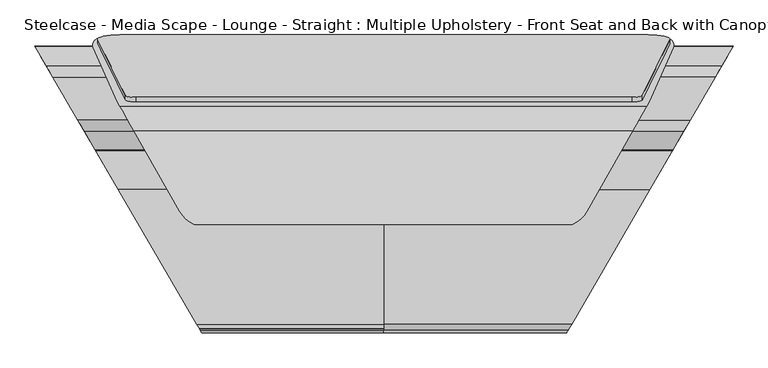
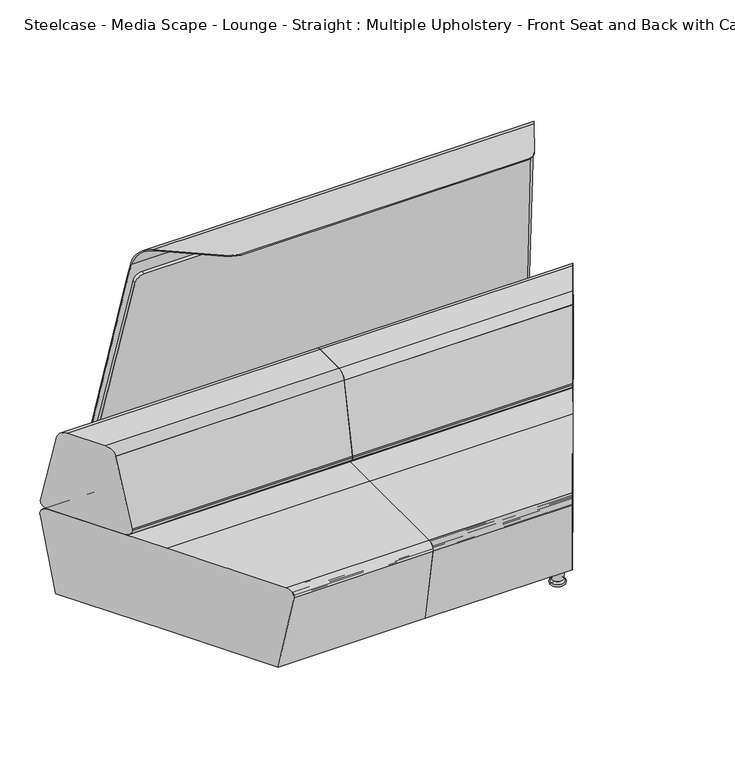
"""IFC4 building model written with IfcOpenShell, lengths in millimetres: furniture geometry, Steelcase - Media Scape - Lounge - Straight : Multiple Upholstery - Front Seat and Back with Canopy."""

from ifc_helpers import new_model, si_unit, point, frame, frame_2d, origin, place, context, project, spatial, polyline, circle_curve, ellipse_curve, trimmed, segment, composite_curve, outline, extrude, source, transform, mapped, element, save
from ifc_brep_helpers import plane_surface, cylinder_surface, revolved_surface, advanced_brep


def steelcase_media_scape_lounge_straight_multiple_upholstery_071ac3ef(model_context):
    return source(origin(), model_context, "Body", "SolidModel", [
        extrude(outline(composite_curve([segment(polyline([(-1415.6185057, 0.0), (23.7511862, 0.0)]), True, "CONTINUOUS"), segment(trimmed(circle_curve(frame_2d((23.7511862, -31.75)), 31.75), [point((23.7511862, 0.0))], [point((55.3473815, -28.6286315))], False, "CARTESIAN"), True, "CONTINUOUS"), segment(polyline([(55.3473815, -28.6286315), (135.1417459, -836.3507541)]), True, "CONTINUOUS"), segment(trimmed(circle_curve(frame_2d((71.9493552, -842.5934909)), 63.5), [point((135.1417459, -836.3507541))], [point((71.9493552, -906.0934908))], False, "CARTESIAN"), True, "CONTINUOUS"), segment(polyline([(71.9493552, -906.0934908), (-1463.8166748, -906.0934908)]), True, "CONTINUOUS"), segment(trimmed(circle_curve(frame_2d((-1463.8166748, -842.5934909)), 63.5), [point((-1463.8166748, -906.0934908))], [point((-1527.0090654, -836.3507541))], False, "CARTESIAN"), True, "CONTINUOUS"), segment(polyline([(-1527.0090654, -836.3507541), (-1447.2147011, -28.6286315)]), True, "CONTINUOUS"), segment(trimmed(circle_curve(frame_2d((-1415.6185057, -31.75)), 31.75), [point((-1447.2147011, -28.6286315))], [point((-1415.6185057, 0.0))], False, "CARTESIAN"), True, "CONTINUOUS")], self_intersect=False)), frame((-166.9698071, 655.0019123, 1344.801262), z_axis=(0.0, 0.9796723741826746, 0.20060418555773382), x_axis=(-1.0, 0.0, 0.0)), (0.0, 0.0, 1.0), 13.7320107),
        advanced_brep(
        [(1076.5280427, 315.862875, 1570.0120121), (-21.7753373, 315.862875, 1570.0120121), (-19.3514145, 314.8894993, 1567.0162697), (1074.1041199, 314.8894993, 1567.0162697), (-64.0738464, 353.3851692, 1554.9229177), (-193.5709962, 581.5044703, 1483.2596108), (1248.3237015, 581.5044703, 1483.2596108), (1118.8265517, 353.3851692, 1554.9229177), (-236.9611075, 657.939526, 1398.5726582), (1291.7138128, 657.939526, 1398.5726582), (-245.4256965, 672.8505579, 1325.7790448), (-315.0113816, 829.1425656, 562.7828877), (-308.6715155, 853.1887441, 445.3927408), (1363.4242208, 853.1887441, 445.3927408), (1369.7640869, 829.1425656, 562.7828877), (1300.1784018, 672.8505579, 1325.7790448), (-304.9480444, 855.3584553, 445.837184), (-302.7530382, 856.2990758, 446.0298606), (1357.5057435, 856.2990758, 446.0298606), (1359.7007498, 855.3584553, 445.837184), (-304.9480444, 855.3584553, 450.6218411), (-315.0113816, 829.1425656, 578.6042206), (-245.4256965, 672.8505579, 1341.6003778), (-237.9951573, 659.7610852, 1405.5013892), (1292.7478626, 659.7610852, 1405.5013892), (1300.1784018, 672.8505579, 1341.6003778), (1369.7640869, 829.1425656, 578.6042206), (1359.7007498, 855.3584553, 450.6218411), (-197.6081664, 588.6162597, 1484.3269805), (1252.3608718, 588.6162597, 1484.3269805), (1118.8265517, 353.3851692, 1558.2244445), (-64.0738464, 353.3851692, 1558.2244445)],
        [
            (0, 1),
            (1, 2, ellipse_curve(frame((12.0540789, 396.6009308, 1818.4981974), z_axis=(0.0, -0.9510565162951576, 0.3090169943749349), x_axis=(0.0, -0.30901699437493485, -0.9510565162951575)), 283.281906, 87.5389231)),
            (2, 3),
            (3, 0, ellipse_curve(frame((1042.6986264, 396.6009308, 1818.4981974), z_axis=(0.0, -0.9510565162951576, 0.3090169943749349), x_axis=(0.0, -0.30901699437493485, -0.9510565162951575)), 283.281906, 87.5389231)),
            (2, 4, ellipse_curve(frame((12.0540789, 396.6009308, 1541.3467565), z_axis=(0.0, -0.2997073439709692, -0.9540311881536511), x_axis=(0.0, 0.9540311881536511, -0.29970734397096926)), 91.7568778, 87.5389231)),
            (4, 5),
            (5, 6),
            (6, 7),
            (7, 3, ellipse_curve(frame((1042.6986264, 396.6009308, 1541.3467565), z_axis=(0.0, -0.2997073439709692, -0.9540311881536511), x_axis=(0.0, 0.9540311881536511, -0.29970734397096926)), 91.7568778, 87.5389231)),
            (5, 8, ellipse_curve(frame((-174.445594, 547.8135868, 1376.0144789), z_axis=(-0.8696465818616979, -0.49367481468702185, 0.0), x_axis=(-0.4936748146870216, 0.8696465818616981, 0.0)), 129.2624017, 112.4126058)),
            (8, 9),
            (9, 6, ellipse_curve(frame((1229.1982993, 547.8135868, 1376.0144789), z_axis=(0.869646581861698, -0.49367481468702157, 0.0), x_axis=(-0.4936748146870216, -0.869646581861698, 0.0)), 129.2624017, 112.4126058)),
            (8, 10),
            (10, 11),
            (11, 12, ellipse_curve(frame((-296.8717682, 837.2188418, 523.3556142), z_axis=(0.0, -0.9796582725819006, -0.20067303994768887), x_axis=(0.0, 0.20067303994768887, -0.9796582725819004)), 98.9484134, 19.8562789)),
            (12, 13),
            (13, 14, ellipse_curve(frame((1351.6244735, 837.2188418, 523.3556142), z_axis=(0.0, -0.9796582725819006, -0.20067303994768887), x_axis=(0.0, 0.20067303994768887, -0.9796582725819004)), 98.9484134, 19.8562789)),
            (14, 15),
            (15, 9),
            (12, 16, ellipse_curve(frame((-296.8717682, 837.2188418, 442.1214686), z_axis=(0.0, 0.20067303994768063, -0.9796582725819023), x_axis=(0.0, -0.9796582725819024, -0.2006730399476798)), 20.2685768, 19.8562789)),
            (16, 17, ellipse_curve(frame((-270.3174639, 777.5768979, 429.9044226), z_axis=(0.0, 0.20067303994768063, -0.9796582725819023), x_axis=(0.0, -0.9796582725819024, -0.2006730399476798)), 86.9104226, 85.1425145)),
            (17, 18),
            (18, 19, ellipse_curve(frame((1325.0701692, 777.5768979, 429.9044226), z_axis=(0.0, 0.20067303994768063, -0.9796582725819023), x_axis=(0.0, -0.9796582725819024, -0.2006730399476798)), 86.9104226, 85.1425145)),
            (19, 13, ellipse_curve(frame((1351.6244735, 837.2188418, 442.1214686), z_axis=(0.0, 0.20067303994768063, -0.9796582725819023), x_axis=(0.0, -0.9796582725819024, -0.2006730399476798)), 20.2685768, 19.8562789)),
            (17, 20, ellipse_curve(frame((-270.3174639, 777.5768979, 830.3407419), z_axis=(0.0, 0.9796582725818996, 0.2006730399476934), x_axis=(0.0, 0.20067303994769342, -0.9796582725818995)), 424.2847695, 85.1425145)),
            (20, 21, ellipse_curve(frame((-296.8717682, 837.2188418, 539.1769472), z_axis=(0.0, 0.9796582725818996, 0.2006730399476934), x_axis=(0.0, 0.20067303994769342, -0.9796582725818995)), 98.9484134, 19.8562789)),
            (21, 22),
            (22, 23),
            (23, 24),
            (24, 25),
            (25, 26),
            (26, 27, ellipse_curve(frame((1351.6244735, 837.2188418, 539.1769472), z_axis=(0.0, 0.9796582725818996, 0.2006730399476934), x_axis=(0.0, 0.20067303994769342, -0.9796582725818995)), 98.9484134, 19.8562789)),
            (27, 18, ellipse_curve(frame((1325.0701692, 777.5768979, 830.3407419), z_axis=(0.0, 0.9796582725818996, 0.2006730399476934), x_axis=(0.0, 0.20067303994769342, -0.9796582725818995)), 424.2847695, 85.1425145)),
            (23, 28, ellipse_curve(frame((-179.8064733, 557.2571927, 1384.5045087), z_axis=(0.8696465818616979, 0.49367481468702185, 0.0), x_axis=(0.4936748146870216, -0.8696465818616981, 0.0)), 120.3158803, 104.632294)),
            (28, 29),
            (29, 24, ellipse_curve(frame((1234.5591787, 557.2571927, 1384.5045087), z_axis=(-0.869646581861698, 0.49367481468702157, 0.0), x_axis=(0.4936748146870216, 0.869646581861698, 0.0)), 120.3158803, 104.632294)),
            (0, 30, ellipse_curve(frame((1042.6986264, 396.6009308, 1544.6482834), z_axis=(0.0, 0.29970734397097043, 0.9540311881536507), x_axis=(0.0, 0.9540311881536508, -0.29970734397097)), 91.7568778, 87.5389231)),
            (30, 29),
            (28, 31),
            (31, 1, ellipse_curve(frame((12.0540789, 396.6009308, 1544.6482834), z_axis=(0.0, 0.29970734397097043, 0.9540311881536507), x_axis=(0.0, 0.9540311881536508, -0.29970734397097)), 91.7568778, 87.5389231)),
            (10, 22),
            (21, 11),
            (20, 16),
            (31, 4),
            (15, 25),
            (30, 7),
            (27, 19),
            (26, 14),
        ],
        [
            plane_surface(frame((1420.6196209, 315.862875, 1570.0120121), z_axis=(0.0, -0.9510565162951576, 0.3090169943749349), x_axis=(-1.0, 0.0, 0.0))),
            plane_surface(frame((1420.6196209, 314.8894993, 1567.0162697), z_axis=(0.0, -0.2997073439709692, -0.9540311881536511), x_axis=(-1.0, 0.0, 0.0))),
            revolved_surface(polyline([(-238.25918620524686, 435.40098100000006, 1376.0144789), (1293.0118915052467, 435.40098100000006, 1376.0144789)]), (-365.811857, 547.8135868, 1376.0144789), (-1.0, 0.0, 0.0)),
            plane_surface(frame((1420.6196209, 657.939526, 1398.5726582), z_axis=(0.0, -0.9796582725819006, -0.20067303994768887), x_axis=(-1.0, 0.0, 0.0))),
            plane_surface(frame((1420.6196209, 853.1887441, 445.3927408), z_axis=(0.0, 0.20067303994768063, -0.9796582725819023), x_axis=(-1.0, 0.0, 0.0))),
            plane_surface(frame((1420.6196209, 856.2990758, 446.0298606), z_axis=(0.0, 0.9796582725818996, 0.2006730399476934), x_axis=(-1.0, 0.0, 0.0))),
            cylinder_surface(frame((-365.811857, 557.2571927, 1384.5045087), z_axis=(1.0, 0.0, 0.0), x_axis=(0.0, -1.0, 0.0)), 104.632294),
            plane_surface(frame((1420.6196209, 588.6162597, 1484.3269805), z_axis=(0.0, 0.29970734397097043, 0.9540311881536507), x_axis=(-1.0, 0.0, 0.0))),
            plane_surface(frame((-245.4256965, 672.8505579, 1835.1143061), z_axis=(-0.9135454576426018, -0.40673664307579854, 0.0), x_axis=(0.0, 0.0, -1.0))),
            cylinder_surface(frame((-296.8717682, 837.2188418, 445.3927408), z_axis=(0.0, 0.0, -1.0), x_axis=(1.0, 0.0, 0.0)), 19.8562789),
            cylinder_surface(frame((-270.3174639, 777.5768979, 445.3927408), z_axis=(0.0, 0.0, -1.0), x_axis=(1.0, 0.0, 0.0)), 85.1425145),
            cylinder_surface(frame((12.0540789, 396.6009308, 445.3927408), z_axis=(0.0, 0.0, -1.0), x_axis=(1.0, 0.0, 0.0)), 87.5389231),
            plane_surface(frame((-64.0738464, 353.3851692, 1835.1143061), z_axis=(-0.8696465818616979, -0.49367481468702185, 0.0), x_axis=(0.0, 0.0, -1.0))),
            plane_surface(frame((1300.1784018, 672.8505579, 1835.1143061), z_axis=(0.869646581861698, -0.49367481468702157, 0.0), x_axis=(0.0, 0.0, -1.0))),
            cylinder_surface(frame((1042.6986264, 396.6009308, 0.0), z_axis=(0.0, 0.0, -1.0), x_axis=(-1.0, 0.0, 0.0)), 87.5389231),
            cylinder_surface(frame((1325.0701692, 777.5768979, 0.0), z_axis=(0.0, 0.0, -1.0), x_axis=(-1.0, 0.0, 0.0)), 85.1425145),
            cylinder_surface(frame((1351.6244735, 837.2188418, 0.0), z_axis=(0.0, 0.0, -1.0), x_axis=(-1.0, 0.0, 0.0)), 19.8562789),
            plane_surface(frame((1369.7640869, 829.1425656, 1835.1143061), z_axis=(0.9135454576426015, -0.40673664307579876, 0.0), x_axis=(0.0, 0.0, -1.0))),
        ],
        [
            (0, [[1, 2, 3, 4]]),
            (1, [[-3, 5, 6, 7, 8, 9]]),
            (2, [[-7, 10, 11, 12]]),
            (3, [[-11, 13, 14, 15, 16, 17, 18, 19]]),
            (4, [[-16, 20, 21, 22, 23, 24]]),
            (5, [[-22, 25, 26, 27, 28, 29, 30, 31, 32, 33]]),
            (6, [[-29, 34, 35, 36]]),
            (7, [[-1, 37, 38, -35, 39, 40]]),
            (8, [[41, -27, 42, -14]]),
            (9, [[-42, -26, 43, -20, -15]]),
            (10, [[-43, -25, -21]]),
            (11, [[44, -5, -2, -40]]),
            (12, [[-41, -13, -10, -6, -44, -39, -34, -28]]),
            (13, [[45, -30, -36, -38, 46, -8, -12, -19]]),
            (14, [[-46, -37, -4, -9]]),
            (15, [[47, -23, -33]]),
            (16, [[-47, -32, 48, -17, -24]]),
            (17, [[-45, -18, -48, -31]]),
        ],
    ),
        extrude(outline(composite_curve([segment(polyline([(-1415.6185057, 0.0), (23.7511862, 0.0)]), True, "CONTINUOUS"), segment(trimmed(circle_curve(frame_2d((23.7511862, -31.75)), 31.75), [point((23.7511862, 0.0))], [point((55.3473815, -28.6286315))], False, "CARTESIAN"), True, "CONTINUOUS"), segment(polyline([(55.3473815, -28.6286315), (135.1417459, -836.3507541)]), True, "CONTINUOUS"), segment(trimmed(circle_curve(frame_2d((71.9493552, -842.5934909)), 63.5), [point((135.1417459, -836.3507541))], [point((71.9493552, -906.0934908))], False, "CARTESIAN"), True, "CONTINUOUS"), segment(polyline([(71.9493552, -906.0934908), (-1463.8166748, -906.0934908)]), True, "CONTINUOUS"), segment(trimmed(circle_curve(frame_2d((-1463.8166748, -842.5934909)), 63.5), [point((-1463.8166748, -906.0934908))], [point((-1527.0090654, -836.3507541))], False, "CARTESIAN"), True, "CONTINUOUS"), segment(polyline([(-1527.0090654, -836.3507541), (-1447.2147011, -28.6286315)]), True, "CONTINUOUS"), segment(trimmed(circle_curve(frame_2d((-1415.6185057, -31.75)), 31.75), [point((-1447.2147011, -28.6286315))], [point((-1415.6185057, 0.0))], False, "CARTESIAN"), True, "CONTINUOUS")], self_intersect=False)), frame((-166.9698071, 671.5649733, 1348.1940367), z_axis=(0.0, 0.9796723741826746, 0.20060418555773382), x_axis=(-1.0, 0.0, 0.0)), (0.0, 0.0, 1.0), 13.7320107),
        advanced_brep(
        [(-432.9507329, 744.618392, 735.1171206), (-452.3869175, 778.0460766, 707.6422134), (-483.7023664, 831.9045354, 434.7626426), (-469.2133128, 806.9852663, 404.4443065), (-323.688364, 556.7014693, 404.4443065), (-309.1993104, 531.7822003, 434.7626426), (-340.5147593, 585.640659, 707.6422134), (-359.950944, 619.0683436, 735.1171206), (528.9638527, 744.618392, 735.1171206), (528.9638527, 619.0683436, 735.1171206), (528.9638527, 585.640659, 707.6422134), (528.9638527, 531.7822003, 434.7626426), (528.9638527, 556.7014693, 404.4443065), (528.9638527, 806.9852663, 404.4443065), (528.9638527, 831.9045354, 434.7626426), (528.9638527, 778.0460766, 707.6422134)],
        [
            (0, 1, ellipse_curve(frame((-432.9507329, 744.618392, 701.0445646), z_axis=(-0.8644905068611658, -0.5026491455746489, 0.0), x_axis=(-0.5026491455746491, 0.8644905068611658, 0.0)), 39.413453, 34.0725559)),
            (1, 2),
            (2, 3, ellipse_curve(frame((-469.2133128, 806.9852663, 429.8443065), z_axis=(-0.8644905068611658, -0.5026491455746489, 0.0), x_axis=(-0.5026491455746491, 0.8644905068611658, 0.0)), 29.3814678, 25.4)),
            (3, 4),
            (4, 5, ellipse_curve(frame((-323.688364, 556.7014693, 429.8443065), z_axis=(-0.8644905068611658, -0.5026491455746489, 0.0), x_axis=(-0.502649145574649, 0.8644905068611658, 0.0)), 29.3814678, 25.4)),
            (5, 6),
            (6, 7, ellipse_curve(frame((-359.950944, 619.0683436, 701.0445646), z_axis=(-0.8644905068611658, -0.5026491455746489, 0.0), x_axis=(-0.502649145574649, 0.8644905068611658, 0.0)), 39.413453, 34.0725559)),
            (7, 0),
            (8, 9),
            (9, 10, circle_curve(frame((528.9638527, 619.0683436, 701.0445646), z_axis=(1.0, 0.0, 0.0), x_axis=(0.0, -1.0, 0.0)), 34.0725559)),
            (10, 11),
            (11, 12, circle_curve(frame((528.9638527, 556.7014693, 429.8443065), z_axis=(1.0, 0.0, 0.0), x_axis=(0.0, -1.0, 0.0)), 25.4)),
            (12, 13),
            (13, 14, circle_curve(frame((528.9638527, 806.9852663, 429.8443065), z_axis=(1.0, 0.0, 0.0), x_axis=(0.0, 1.0, 0.0)), 25.4)),
            (14, 15),
            (15, 8, circle_curve(frame((528.9638527, 744.618392, 701.0445646), z_axis=(1.0, 0.0, 0.0), x_axis=(0.0, 1.0, 0.0)), 34.0725559)),
            (15, 1),
            (0, 8),
            (14, 2),
            (13, 3),
            (12, 4),
            (11, 5),
            (10, 6),
            (9, 7),
        ],
        [
            plane_surface(frame((22.6450752, -38.9465548, 744.9721396), z_axis=(-0.8644905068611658, -0.5026491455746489, 0.0), x_axis=(0.0, 0.0, -1.0))),
            plane_surface(frame((528.9638527, 778.690948, 701.0445646), z_axis=(1.0, 0.0, 0.0), x_axis=(0.0, 0.0, 1.0))),
            cylinder_surface(frame((528.9638527, 744.618392, 701.0445646), z_axis=(-1.0, 0.0, 0.0), x_axis=(0.0, 1.0, 0.0)), 34.0725559),
            plane_surface(frame((-497.7585178, 778.0460766, 707.6422134), z_axis=(0.0, 0.9810735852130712, 0.19363527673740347), x_axis=(1.0, 0.0, 0.0))),
            cylinder_surface(frame((528.9638527, 806.9852663, 429.8443065), z_axis=(-1.0, 0.0, 0.0), x_axis=(0.0, 1.0, 0.0)), 25.4),
            plane_surface(frame((-497.7585178, 806.9852663, 404.4443065), z_axis=(0.0, 0.0, -1.0), x_axis=(1.0, 0.0, 0.0))),
            cylinder_surface(frame((528.9638527, 556.7014693, 429.8443065), z_axis=(-1.0, 0.0, 0.0), x_axis=(0.0, -1.0, 0.0)), 25.4),
            plane_surface(frame((-497.7585178, 531.7822003, 434.7626426), z_axis=(0.0, -0.9810735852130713, 0.1936352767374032), x_axis=(1.0, 0.0, 0.0))),
            cylinder_surface(frame((528.9638527, 619.0683436, 701.0445646), z_axis=(-1.0, 0.0, 0.0), x_axis=(0.0, -1.0, 0.0)), 34.0725559),
            plane_surface(frame((-497.7585178, 619.0683436, 735.1171206), z_axis=(0.0, 0.0, 1.0), x_axis=(1.0, 0.0, 0.0))),
        ],
        [
            (0, [[1, 2, 3, 4, 5, 6, 7, 8]]),
            (1, [[9, 10, 11, 12, 13, 14, 15, 16]]),
            (2, [[-16, 17, -1, 18]]),
            (3, [[-15, 19, -2, -17]]),
            (4, [[-14, 20, -3, -19]]),
            (5, [[-13, 21, -4, -20]]),
            (6, [[-12, 22, -5, -21]]),
            (7, [[-11, 23, -6, -22]]),
            (8, [[-10, 24, -7, -23]]),
            (9, [[-9, -18, -8, -24]]),
        ],
    ),
        advanced_brep(
        [(528.9638527, 416.9525328, 404.4443065), (528.9638527, 25.4465658, 404.4443065), (528.9638527, 0.4050887, 374.7917281), (528.9638527, 51.3770305, 74.6414242), (528.9638527, 416.9525328, 74.6414242), (528.9638527, 782.5280351, 74.6414242), (528.9638527, 833.4999769, 374.7917281), (528.9638527, 808.4584998, 404.4443065), (-242.4327771, 416.9525328, 404.4443065), (-14.7956449, 25.4465658, 404.4443065), (-0.2355347, 0.4050887, 374.7917281), (-29.8726479, 51.3770305, 74.6414242), (-242.4327771, 416.9525328, 74.6414242), (-454.9929064, 782.5280351, 74.6414242), (-484.6300196, 833.4999769, 374.7917281), (-470.0699093, 808.4584998, 404.4443065)],
        [
            (0, 1),
            (1, 2, circle_curve(frame((528.9638527, 25.4465658, 379.0443065), z_axis=(1.0, 0.0, 0.0), x_axis=(0.0, -1.0, 0.0)), 25.4)),
            (2, 3),
            (3, 4),
            (4, 5),
            (5, 6),
            (6, 7, circle_curve(frame((528.9638527, 808.4584998, 379.0443065), z_axis=(1.0, 0.0, 0.0), x_axis=(0.0, 1.0, 0.0)), 25.4)),
            (7, 0),
            (0, 8),
            (8, 9),
            (9, 1),
            (9, 10, ellipse_curve(frame((-14.7956449, 25.4465658, 379.0443065), z_axis=(0.8644905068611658, 0.5026491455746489, 0.0), x_axis=(0.502649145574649, -0.8644905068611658, 0.0)), 29.3814678, 25.4)),
            (10, 2),
            (10, 11),
            (11, 3),
            (11, 12),
            (12, 4),
            (12, 13),
            (13, 5),
            (13, 14),
            (14, 6),
            (14, 15, ellipse_curve(frame((-470.0699093, 808.4584998, 379.0443065), z_axis=(0.8644905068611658, 0.5026491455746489, 0.0), x_axis=(0.502649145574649, -0.8644905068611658, 0.0)), 29.3814678, 25.4)),
            (15, 7),
            (15, 8),
        ],
        [
            plane_surface(frame((528.9638527, -57.5722485, 404.4443065), z_axis=(1.0, 0.0, 0.0), x_axis=(0.0, -1.0, 0.0))),
            plane_surface(frame((528.9638527, 416.9525328, 404.4443065), z_axis=(0.0, 0.0, 1.0), x_axis=(-1.0, 0.0, 0.0))),
            cylinder_surface(frame((-497.7585178, 25.4465658, 379.0443065), z_axis=(1.0, 0.0, 0.0), x_axis=(0.0, -1.0, 0.0)), 25.4),
            plane_surface(frame((528.9638527, 0.4050887, 374.7917281), z_axis=(0.0, -0.9858849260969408, -0.16742434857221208), x_axis=(-1.0, 0.0, 0.0))),
            plane_surface(frame((528.9638527, 51.3770305, 74.6414242), z_axis=(0.0, 0.0, -1.0), x_axis=(-1.0, 0.0, 0.0))),
            plane_surface(frame((528.9638527, 416.9525328, 74.6414242), z_axis=(0.0, 0.0, -1.0), x_axis=(-1.0, 0.0, 0.0))),
            plane_surface(frame((528.9638527, 782.5280351, 74.6414242), z_axis=(0.0, 0.9858849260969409, -0.1674243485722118), x_axis=(-1.0, 0.0, 0.0))),
            cylinder_surface(frame((-497.7585178, 808.4584998, 379.0443065), z_axis=(1.0, 0.0, 0.0), x_axis=(0.0, 1.0, 0.0)), 25.4),
            plane_surface(frame((528.9638527, 808.4584998, 404.4443065), z_axis=(0.0, 0.0, 1.0), x_axis=(-1.0, 0.0, 0.0))),
            plane_surface(frame((22.6450752, -38.9465548, 744.9721396), z_axis=(-0.8644905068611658, -0.5026491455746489, 0.0), x_axis=(0.0, 0.0, -1.0))),
        ],
        [
            (0, [[1, 2, 3, 4, 5, 6, 7, 8]]),
            (1, [[-1, 9, 10, 11]]),
            (2, [[-2, -11, 12, 13]]),
            (3, [[-3, -13, 14, 15]]),
            (4, [[-4, -15, 16, 17]]),
            (5, [[-5, -17, 18, 19]]),
            (6, [[-6, -19, 20, 21]]),
            (7, [[-7, -21, 22, 23]]),
            (8, [[-8, -23, 24, -9]]),
            (9, [[-10, -24, -22, -20, -18, -16, -14, -12]]),
        ],
    ),
        advanced_brep(
        [(1528.798605, 808.4584998, 404.4443065), (1301.6333208, 416.9525328, 404.4443065), (1074.4680366, 25.4465658, 404.4443065), (1059.9381066, 0.4050887, 374.7917281), (1089.5137878, 51.3770305, 74.6414242), (1301.6333208, 416.9525328, 74.6414242), (1513.7528538, 782.5280351, 74.6414242), (1543.328535, 833.4999769, 374.7917281), (528.9638527, 416.9525328, 404.4443065), (528.9638527, 808.4584998, 404.4443065), (528.9638527, 833.4999769, 374.7917281), (528.9638527, 782.5280351, 74.6414242), (528.9638527, 416.9525328, 74.6414242), (528.9638527, 51.3770305, 74.6414242), (528.9638527, 0.4050887, 374.7917281), (528.9638527, 25.4465658, 404.4443065)],
        [
            (0, 1),
            (1, 2),
            (2, 3, ellipse_curve(frame((1074.4680366, 25.4465658, 379.0443065), z_axis=(0.8649431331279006, -0.5018698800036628, 0.0), x_axis=(-0.5018698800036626, -0.8649431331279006, 0.0)), 29.3660924, 25.4)),
            (3, 4),
            (4, 5),
            (5, 6),
            (6, 7),
            (7, 0, ellipse_curve(frame((1528.798605, 808.4584998, 379.0443065), z_axis=(0.8649431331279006, -0.5018698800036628, 0.0), x_axis=(-0.5018698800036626, -0.8649431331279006, 0.0)), 29.3660924, 25.4)),
            (8, 9),
            (9, 10, circle_curve(frame((528.9638527, 808.4584998, 379.0443065), z_axis=(-1.0, 0.0, 0.0), x_axis=(0.0, 1.0, 0.0)), 25.4)),
            (10, 11),
            (11, 12),
            (12, 13),
            (13, 14),
            (14, 15, circle_curve(frame((528.9638527, 25.4465658, 379.0443065), z_axis=(-1.0, 0.0, 0.0), x_axis=(0.0, -1.0, 0.0)), 25.4)),
            (15, 8),
            (8, 1),
            (0, 9),
            (7, 10),
            (6, 11),
            (5, 12),
            (4, 13),
            (3, 14),
            (2, 15),
        ],
        [
            plane_surface(frame((1544.0895768, 834.8115876, 744.9721396), z_axis=(0.8649431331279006, -0.5018698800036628, 0.0), x_axis=(0.0, 0.0, -1.0))),
            plane_surface(frame((528.9638527, 891.4773142, 404.4443065), z_axis=(-1.0, 0.0, 0.0), x_axis=(0.0, 1.0, 0.0))),
            plane_surface(frame((528.9638527, 416.9525328, 404.4443065), z_axis=(0.0, 0.0, 1.0), x_axis=(1.0, 0.0, 0.0))),
            cylinder_surface(frame((1555.6862231, 808.4584998, 379.0443065), z_axis=(-1.0, 0.0, 0.0), x_axis=(0.0, 1.0, 0.0)), 25.4),
            plane_surface(frame((528.9638527, 833.4999769, 374.7917281), z_axis=(0.0, 0.9858849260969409, -0.1674243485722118), x_axis=(1.0, 0.0, 0.0))),
            plane_surface(frame((528.9638527, 782.5280351, 74.6414242), z_axis=(0.0, 0.0, -1.0), x_axis=(1.0, 0.0, 0.0))),
            plane_surface(frame((528.9638527, 416.9525328, 74.6414242), z_axis=(0.0, 0.0, -1.0), x_axis=(1.0, 0.0, 0.0))),
            plane_surface(frame((528.9638527, 51.3770305, 74.6414242), z_axis=(0.0, -0.9858849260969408, -0.16742434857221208), x_axis=(1.0, 0.0, 0.0))),
            cylinder_surface(frame((1555.6862231, 25.4465658, 379.0443065), z_axis=(-1.0, 0.0, 0.0), x_axis=(0.0, -1.0, 0.0)), 25.4),
            plane_surface(frame((528.9638527, 25.4465658, 404.4443065), z_axis=(0.0, 0.0, 1.0), x_axis=(1.0, 0.0, 0.0))),
        ],
        [
            (0, [[1, 2, 3, 4, 5, 6, 7, 8]]),
            (1, [[9, 10, 11, 12, 13, 14, 15, 16]]),
            (2, [[-9, 17, -1, 18]]),
            (3, [[-10, -18, -8, 19]]),
            (4, [[-11, -19, -7, 20]]),
            (5, [[-12, -20, -6, 21]]),
            (6, [[-13, -21, -5, 22]]),
            (7, [[-14, -22, -4, 23]]),
            (8, [[-15, -23, -3, 24]]),
            (9, [[-16, -24, -2, -17]]),
        ],
    ),
        advanced_brep(
        [(528.9638527, 744.618392, 735.1171206), (528.9638527, 778.0460766, 707.6422134), (528.9638527, 831.9045354, 434.7626426), (528.9638527, 806.9852663, 404.4443065), (528.9638527, 556.7014693, 404.4443065), (528.9638527, 531.7822003, 434.7626426), (528.9638527, 585.640659, 707.6422134), (528.9638527, 619.0683436, 735.1171206), (1418.9078951, 619.0683436, 735.1171206), (1491.7563695, 744.618392, 735.1171206), (1399.5119979, 585.640659, 707.6422134), (1368.26146, 531.7822003, 434.7626426), (1382.7204806, 556.7014693, 404.4443065), (1527.9437841, 806.9852663, 404.4443065), (1542.4028047, 831.9045354, 434.7626426), (1511.1522667, 778.0460766, 707.6422134)],
        [
            (0, 1, circle_curve(frame((528.9638527, 744.618392, 701.0445646), z_axis=(-1.0, 0.0, 0.0), x_axis=(0.0, 1.0, 0.0)), 34.0725559)),
            (1, 2),
            (2, 3, circle_curve(frame((528.9638527, 806.9852663, 429.8443065), z_axis=(-1.0, 0.0, 0.0), x_axis=(0.0, 1.0, 0.0)), 25.4)),
            (3, 4),
            (4, 5, circle_curve(frame((528.9638527, 556.7014693, 429.8443065), z_axis=(-1.0, 0.0, 0.0), x_axis=(0.0, -1.0, 0.0)), 25.4)),
            (5, 6),
            (6, 7, circle_curve(frame((528.9638527, 619.0683436, 701.0445646), z_axis=(-1.0, 0.0, 0.0), x_axis=(0.0, -1.0, 0.0)), 34.0725559)),
            (7, 0),
            (7, 8),
            (8, 9),
            (9, 0),
            (6, 10),
            (10, 8, ellipse_curve(frame((1418.9078951, 619.0683436, 701.0445646), z_axis=(-0.8649431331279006, 0.5018698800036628, 0.0), x_axis=(0.5018698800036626, 0.8649431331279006, 0.0)), 39.3928279, 34.0725559)),
            (5, 11),
            (11, 10),
            (4, 12),
            (12, 11, ellipse_curve(frame((1382.7204806, 556.7014693, 429.8443065), z_axis=(-0.8649431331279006, 0.5018698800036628, 0.0), x_axis=(0.5018698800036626, 0.8649431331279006, 0.0)), 29.3660924, 25.4)),
            (3, 13),
            (13, 12),
            (2, 14),
            (14, 13, ellipse_curve(frame((1527.9437841, 806.9852663, 429.8443065), z_axis=(-0.8649431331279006, 0.5018698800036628, 0.0), x_axis=(0.5018698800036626, 0.8649431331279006, 0.0)), 29.3660924, 25.4)),
            (1, 15),
            (15, 14),
            (9, 15, ellipse_curve(frame((1491.7563695, 744.618392, 701.0445646), z_axis=(-0.8649431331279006, 0.5018698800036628, 0.0), x_axis=(0.5018698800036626, 0.8649431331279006, 0.0)), 39.3928279, 34.0725559)),
        ],
        [
            plane_surface(frame((528.9638527, 567.2050656, 735.1171206), z_axis=(-1.0, 0.0, 0.0), x_axis=(0.0, 1.0, 0.0))),
            plane_surface(frame((1555.6862231, 744.618392, 735.1171206), z_axis=(0.0, 0.0, 1.0), x_axis=(-1.0, 0.0, 0.0))),
            cylinder_surface(frame((528.9638527, 619.0683436, 701.0445646), z_axis=(1.0, 0.0, 0.0), x_axis=(0.0, -1.0, 0.0)), 34.0725559),
            plane_surface(frame((1555.6862231, 585.640659, 707.6422134), z_axis=(0.0, -0.9810735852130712, 0.19363527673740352), x_axis=(-1.0, 0.0, 0.0))),
            cylinder_surface(frame((528.9638527, 556.7014693, 429.8443065), z_axis=(1.0, 0.0, 0.0), x_axis=(0.0, -1.0, 0.0)), 25.4),
            plane_surface(frame((1555.6862231, 556.7014693, 404.4443065), z_axis=(0.0, 0.0, -1.0), x_axis=(-1.0, 0.0, 0.0))),
            cylinder_surface(frame((528.9638527, 806.9852663, 429.8443065), z_axis=(1.0, 0.0, 0.0), x_axis=(0.0, 1.0, 0.0)), 25.4),
            plane_surface(frame((1555.6862231, 831.9045354, 434.7626426), z_axis=(0.0, 0.9810735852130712, 0.19363527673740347), x_axis=(-1.0, 0.0, 0.0))),
            cylinder_surface(frame((528.9638527, 744.618392, 701.0445646), z_axis=(1.0, 0.0, 0.0), x_axis=(0.0, 1.0, 0.0)), 34.0725559),
            plane_surface(frame((1544.0895768, 834.8115876, 744.9721396), z_axis=(0.8649431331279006, -0.5018698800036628, 0.0), x_axis=(0.0, 0.0, -1.0))),
        ],
        [
            (0, [[1, 2, 3, 4, 5, 6, 7, 8]]),
            (1, [[-8, 9, 10, 11]]),
            (2, [[-7, 12, 13, -9]]),
            (3, [[-6, 14, 15, -12]]),
            (4, [[-5, 16, 17, -14]]),
            (5, [[-4, 18, 19, -16]]),
            (6, [[-3, 20, 21, -18]]),
            (7, [[-2, 22, 23, -20]]),
            (8, [[-1, -11, 24, -22]]),
            (9, [[-10, -13, -15, -17, -19, -21, -23, -24]]),
        ],
    ),
        advanced_brep(
        [(1382.5440126, 556.3973372, 404.1903065), (1527.9728725, 807.0353985, 404.1903065), (1527.9728725, 807.0353985, 405.2063065), (1382.6346639, 556.5535694, 405.2063065), (1368.6809061, 532.5050909, 434.4651844), (1399.9655094, 586.4222592, 707.6422134), (1399.3646184, 585.386659, 707.6422134), (1368.084992, 531.4780681, 434.5086426), (528.9638527, 556.3973372, 404.1903065), (528.9638527, 531.4780681, 434.5086426), (528.9638527, 585.386659, 707.6422134), (528.9638527, 586.4222592, 707.6422134), (528.9638527, 532.5050909, 434.4651844), (528.9638527, 556.5535694, 405.2063065), (528.9638527, 807.0353985, 405.2063065), (528.9638527, 807.0353985, 404.1903065)],
        [
            (0, 1),
            (1, 2),
            (2, 3),
            (3, 4, ellipse_curve(frame((1382.6346639, 556.5535694, 429.718717), z_axis=(-0.8649431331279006, 0.5018698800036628, 0.0), x_axis=(-0.5018698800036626, -0.8649431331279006, 0.0)), 28.33991, 24.5124105)),
            (4, 5),
            (5, 6),
            (6, 7),
            (7, 0, ellipse_curve(frame((1382.5440126, 556.3973372, 429.5903065), z_axis=(0.8649431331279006, -0.5018698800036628, 0.0), x_axis=(0.5018698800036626, 0.8649431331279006, 0.0)), 29.3660924, 25.4)),
            (8, 9, circle_curve(frame((528.9638527, 556.3973372, 429.5903065), z_axis=(-1.0, 0.0, 0.0), x_axis=(0.0, -1.0, 0.0)), 25.4)),
            (9, 10),
            (10, 11),
            (11, 12),
            (12, 13, circle_curve(frame((528.9638527, 556.5535694, 429.718717), z_axis=(1.0, 0.0, 0.0), x_axis=(0.0, -1.0, 0.0)), 24.5124105)),
            (13, 14),
            (14, 15),
            (15, 8),
            (15, 1),
            (0, 8),
            (14, 2),
            (13, 3),
            (12, 4),
            (11, 5),
            (10, 6),
            (9, 7),
        ],
        [
            plane_surface(frame((1544.0895768, 834.8115876, 1808.8293217), z_axis=(0.8649431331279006, -0.5018698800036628, 0.0), x_axis=(0.0, 0.0, -1.0))),
            plane_surface(frame((528.9638527, 852.9550656, 404.1903065), z_axis=(-1.0, 0.0, 0.0), x_axis=(0.0, -1.0, 0.0))),
            plane_surface(frame((1555.6862231, 556.3973372, 404.1903065), z_axis=(0.0, 0.0, -1.0), x_axis=(-1.0, 0.0, 0.0))),
            plane_surface(frame((1555.6862231, 807.0353985, 404.1903065), z_axis=(0.0, 1.0, 0.0), x_axis=(-1.0, 0.0, 0.0))),
            plane_surface(frame((1555.6862231, 807.0353985, 405.2063065), z_axis=(0.0, 0.0, 1.0), x_axis=(-1.0, 0.0, 0.0))),
            revolved_surface(polyline([(528.9638527, 532.0411589, 429.718717), (1396.8576111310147, 532.0411589, 429.718717)]), (528.9638527, 556.5535694, 429.718717), (-1.0, 0.0, 0.0)),
            plane_surface(frame((1555.6862231, 532.5050909, 434.4651844), z_axis=(0.0, 0.9810735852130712, -0.19363527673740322), x_axis=(-1.0, 0.0, 0.0))),
            plane_surface(frame((1555.6862231, 586.4222592, 707.6422134), z_axis=(0.0, 0.0, 1.0), x_axis=(-1.0, 0.0, 0.0))),
            plane_surface(frame((1555.6862231, 585.386659, 707.6422134), z_axis=(0.0, -0.9810735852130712, 0.1936352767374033), x_axis=(-1.0, 0.0, 0.0))),
            cylinder_surface(frame((528.9638527, 556.3973372, 429.5903065), z_axis=(1.0, 0.0, 0.0), x_axis=(0.0, -1.0, 0.0)), 25.4),
        ],
        [
            (0, [[1, 2, 3, 4, 5, 6, 7, 8]]),
            (1, [[9, 10, 11, 12, 13, 14, 15, 16]]),
            (2, [[-16, 17, -1, 18]]),
            (3, [[-15, 19, -2, -17]]),
            (4, [[-14, 20, -3, -19]]),
            (5, [[-13, 21, -4, -20]]),
            (6, [[-12, 22, -5, -21]]),
            (7, [[-11, 23, -6, -22]]),
            (8, [[-10, 24, -7, -23]]),
            (9, [[-9, -18, -8, -24]]),
        ],
    ),
        advanced_brep(
        [(-323.5115295, 556.3973372, 404.1903065), (-309.0224759, 531.4780681, 434.5086426), (-340.3670736, 585.386659, 707.6422134), (-340.9692127, 586.4222592, 707.6422134), (-309.6196278, 532.5050909, 434.4651844), (-323.6023691, 556.5535694, 405.2063065), (-469.2424616, 807.0353985, 405.2063065), (-469.2424616, 807.0353985, 404.1903065), (528.9638527, 556.3973372, 404.1903065), (528.9638527, 807.0353985, 404.1903065), (528.9638527, 807.0353985, 405.2063065), (528.9638527, 556.5535694, 405.2063065), (528.9638527, 532.5050909, 434.4651844), (528.9638527, 586.4222592, 707.6422134), (528.9638527, 585.386659, 707.6422134), (528.9638527, 531.4780681, 434.5086426)],
        [
            (0, 1, ellipse_curve(frame((-323.5115295, 556.3973372, 429.5903065), z_axis=(-0.8644905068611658, -0.5026491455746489, 0.0), x_axis=(-0.502649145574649, 0.8644905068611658, 0.0)), 29.3814678, 25.4)),
            (1, 2),
            (2, 3),
            (3, 4),
            (4, 5, ellipse_curve(frame((-323.6023691, 556.5535694, 429.718717), z_axis=(0.8644905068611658, 0.5026491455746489, 0.0), x_axis=(0.502649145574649, -0.8644905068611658, 0.0)), 28.354748, 24.5124105)),
            (5, 6),
            (6, 7),
            (7, 0),
            (8, 9),
            (9, 10),
            (10, 11),
            (11, 12, circle_curve(frame((528.9638527, 556.5535694, 429.718717), z_axis=(-1.0, 0.0, 0.0), x_axis=(0.0, -1.0, 0.0)), 24.5124105)),
            (12, 13),
            (13, 14),
            (14, 15),
            (15, 8, circle_curve(frame((528.9638527, 556.3973372, 429.5903065), z_axis=(1.0, 0.0, 0.0), x_axis=(0.0, -1.0, 0.0)), 25.4)),
            (15, 1),
            (0, 8),
            (14, 2),
            (13, 3),
            (12, 4),
            (11, 5),
            (10, 6),
            (9, 7),
        ],
        [
            plane_surface(frame((22.6450752, -38.9465548, 1808.8293217), z_axis=(-0.8644905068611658, -0.5026491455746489, 0.0), x_axis=(0.0, 0.0, -1.0))),
            plane_surface(frame((528.9638527, 530.9973372, 429.5903065), z_axis=(1.0, 0.0, 0.0), x_axis=(0.0, 0.0, -1.0))),
            cylinder_surface(frame((528.9638527, 556.3973372, 429.5903065), z_axis=(-1.0, 0.0, 0.0), x_axis=(0.0, -1.0, 0.0)), 25.4),
            plane_surface(frame((-497.7585178, 531.4780681, 434.5086426), z_axis=(0.0, -0.9810735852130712, 0.1936352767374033), x_axis=(1.0, 0.0, 0.0))),
            plane_surface(frame((-497.7585178, 585.386659, 707.6422134), z_axis=(0.0, 0.0, 1.0), x_axis=(1.0, 0.0, 0.0))),
            plane_surface(frame((-497.7585178, 586.4222592, 707.6422134), z_axis=(0.0, 0.9810735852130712, -0.19363527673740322), x_axis=(1.0, 0.0, 0.0))),
            revolved_surface(polyline([(528.9638527, 532.0411589, 429.718717), (-337.85485895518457, 532.0411589, 429.718717)]), (528.9638527, 556.5535694, 429.718717), (1.0, 0.0, 0.0)),
            plane_surface(frame((-497.7585178, 556.5535694, 405.2063065), z_axis=(0.0, 0.0, 1.0), x_axis=(1.0, 0.0, 0.0))),
            plane_surface(frame((-497.7585178, 807.0353985, 405.2063065), z_axis=(0.0, 1.0, 0.0), x_axis=(1.0, 0.0, 0.0))),
            plane_surface(frame((-497.7585178, 807.0353985, 404.1903065), z_axis=(0.0, 0.0, -1.0), x_axis=(1.0, 0.0, 0.0))),
        ],
        [
            (0, [[1, 2, 3, 4, 5, 6, 7, 8]]),
            (1, [[9, 10, 11, 12, 13, 14, 15, 16]]),
            (2, [[-16, 17, -1, 18]]),
            (3, [[-15, 19, -2, -17]]),
            (4, [[-14, 20, -3, -19]]),
            (5, [[-13, 21, -4, -20]]),
            (6, [[-12, 22, -5, -21]]),
            (7, [[-11, 23, -6, -22]]),
            (8, [[-10, 24, -7, -23]]),
            (9, [[-9, -18, -8, -24]]),
        ],
    ),
        advanced_brep(
        [(528.9638527, 416.9525328, 404.6983065), (528.9638527, 808.759271, 404.6983065), (528.9638527, 833.8007481, 375.0457281), (528.9638527, 0.1043175, 375.0457281), (528.9638527, 25.1457946, 404.6983065), (1301.6333208, 416.9525328, 404.6983065), (1528.9731229, 808.759271, 404.6983065), (1543.5030528, 833.8007481, 375.0457281), (1059.7635888, 0.1043175, 375.0457281), (1074.2935187, 25.1457946, 404.6983065)],
        [
            (0, 1),
            (1, 2, circle_curve(frame((528.9638527, 808.759271, 379.2983065), z_axis=(-1.0, 0.0, 0.0), x_axis=(0.0, 1.0, 0.0)), 25.4)),
            (2, 3),
            (3, 4, circle_curve(frame((528.9638527, 25.1457946, 379.2983065), z_axis=(-1.0, 0.0, 0.0), x_axis=(0.0, -1.0, 0.0)), 25.4)),
            (4, 0),
            (0, 5),
            (5, 6),
            (6, 1),
            (6, 7, ellipse_curve(frame((1528.9731229, 808.759271, 379.2983065), z_axis=(-0.8649431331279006, 0.5018698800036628, 0.0), x_axis=(-0.5018698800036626, -0.8649431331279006, 0.0)), 29.3660924, 25.4)),
            (7, 2),
            (7, 8),
            (8, 3),
            (8, 9, ellipse_curve(frame((1074.2935187, 25.1457946, 379.2983065), z_axis=(-0.8649431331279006, 0.5018698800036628, 0.0), x_axis=(-0.5018698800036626, -0.8649431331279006, 0.0)), 29.3660924, 25.4)),
            (9, 4),
            (9, 5),
        ],
        [
            plane_surface(frame((528.9638527, 891.4773142, 404.6983065), z_axis=(-1.0, 0.0, 0.0), x_axis=(0.0, 1.0, 0.0))),
            plane_surface(frame((528.9638527, 416.9525328, 404.6983065), z_axis=(0.0, 0.0, 1.0), x_axis=(1.0, 0.0, 0.0))),
            cylinder_surface(frame((1555.6087571, 808.759271, 379.2983065), z_axis=(-1.0, 0.0, 0.0), x_axis=(0.0, 1.0, 0.0)), 25.4),
            plane_surface(frame((528.9638527, 833.8007481, 375.0457281), z_axis=(0.0, 0.0, -1.0), x_axis=(1.0, 0.0, 0.0))),
            cylinder_surface(frame((1555.6087571, 25.1457946, 379.2983065), z_axis=(-1.0, 0.0, 0.0), x_axis=(0.0, -1.0, 0.0)), 25.4),
            plane_surface(frame((528.9638527, 25.1457946, 404.6983065), z_axis=(0.0, 0.0, 1.0), x_axis=(1.0, 0.0, 0.0))),
            plane_surface(frame((1544.0895768, 834.8115876, 1808.8293217), z_axis=(0.8649431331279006, -0.5018698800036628, 0.0), x_axis=(0.0, 0.0, -1.0))),
        ],
        [
            (0, [[1, 2, 3, 4, 5]]),
            (1, [[-1, 6, 7, 8]]),
            (2, [[-2, -8, 9, 10]]),
            (3, [[-3, -10, 11, 12]]),
            (4, [[-4, -12, 13, 14]]),
            (5, [[-5, -14, 15, -6]]),
            (6, [[-7, -15, -13, -11, -9]]),
        ],
    ),
        advanced_brep(
        [(528.9638527, 416.9525328, 404.6983065), (528.9638527, 25.1457946, 404.6983065), (528.9638527, 0.1043175, 375.0457281), (528.9638527, 833.8007481, 375.0457281), (528.9638527, 808.759271, 404.6983065), (-242.4327771, 416.9525328, 404.6983065), (-14.6207646, 25.1457946, 404.6983065), (-0.0606543, 0.1043175, 375.0457281), (-484.8048999, 833.8007481, 375.0457281), (-470.2447896, 808.759271, 404.6983065)],
        [
            (0, 1),
            (1, 2, circle_curve(frame((528.9638527, 25.1457946, 379.2983065), z_axis=(1.0, 0.0, 0.0), x_axis=(0.0, -1.0, 0.0)), 25.4)),
            (2, 3),
            (3, 4, circle_curve(frame((528.9638527, 808.759271, 379.2983065), z_axis=(1.0, 0.0, 0.0), x_axis=(0.0, 1.0, 0.0)), 25.4)),
            (4, 0),
            (0, 5),
            (5, 6),
            (6, 1),
            (6, 7, ellipse_curve(frame((-14.6207646, 25.1457946, 379.2983065), z_axis=(0.8644905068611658, 0.5026491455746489, 0.0), x_axis=(0.502649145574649, -0.8644905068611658, 0.0)), 29.3814678, 25.4)),
            (7, 2),
            (7, 8),
            (8, 3),
            (8, 9, ellipse_curve(frame((-470.2447896, 808.759271, 379.2983065), z_axis=(0.8644905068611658, 0.5026491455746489, 0.0), x_axis=(0.502649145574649, -0.8644905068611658, 0.0)), 29.3814678, 25.4)),
            (9, 4),
            (9, 5),
        ],
        [
            plane_surface(frame((528.9638527, -57.5722485, 404.6983065), z_axis=(1.0, 0.0, 0.0), x_axis=(0.0, -1.0, 0.0))),
            plane_surface(frame((528.9638527, 416.9525328, 404.6983065), z_axis=(0.0, 0.0, 1.0), x_axis=(-1.0, 0.0, 0.0))),
            cylinder_surface(frame((-497.6810517, 25.1457946, 379.2983065), z_axis=(1.0, 0.0, 0.0), x_axis=(0.0, -1.0, 0.0)), 25.4),
            plane_surface(frame((528.9638527, 0.1043175, 375.0457281), z_axis=(0.0, 0.0, -1.0), x_axis=(-1.0, 0.0, 0.0))),
            cylinder_surface(frame((-497.6810517, 808.759271, 379.2983065), z_axis=(1.0, 0.0, 0.0), x_axis=(0.0, 1.0, 0.0)), 25.4),
            plane_surface(frame((528.9638527, 808.759271, 404.6983065), z_axis=(0.0, 0.0, 1.0), x_axis=(-1.0, 0.0, 0.0))),
            plane_surface(frame((22.6450752, -38.9465548, 1808.8293217), z_axis=(-0.8644905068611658, -0.5026491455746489, 0.0), x_axis=(0.0, 0.0, -1.0))),
        ],
        [
            (0, [[1, 2, 3, 4, 5]]),
            (1, [[-1, 6, 7, 8]]),
            (2, [[-2, -8, 9, 10]]),
            (3, [[-3, -10, 11, 12]]),
            (4, [[-4, -12, 13, 14]]),
            (5, [[-5, -14, 15, -6]]),
            (6, [[-7, -15, -13, -11, -9]]),
        ],
    ),
        advanced_brep(
        [(1415.6593492, 727.0057274, 74.1561731), (1439.4462694, 727.0057274, 74.1561731), (1391.8724291, 727.0057274, 74.1561731), (1389.605707, 727.0057274, 0.0), (1441.7129915, 727.0057274, 0.0), (1415.6593492, 727.0057274, 0.0), (1389.605707, 727.0057274, 6.3788302), (1441.7129915, 727.0057274, 6.3788302), (1406.1343492, 727.0057274, 6.3788302), (1425.1843492, 727.0057274, 6.3788302), (1406.1343492, 727.0057274, 17.057519), (1425.1843492, 727.0057274, 17.057519), (1394.704233, 727.0057274, 17.057519), (1436.6144655, 727.0057274, 17.057519)],
        [
            (0, 1),
            (1, 2, circle_curve(frame((1415.6593492, 727.0057274, 74.1561731), z_axis=(0.0, 0.0, 1.0), x_axis=(1.0, 0.0, 0.0)), 23.7869202)),
            (2, 0),
            (2, 1, circle_curve(frame((1415.6593492, 727.0057274, 74.1561731), z_axis=(0.0, 0.0, 1.0), x_axis=(1.0, 0.0, 0.0)), 23.7869202)),
            (3, 4, circle_curve(frame((1415.6593492, 727.0057274, 0.0), z_axis=(0.0, 0.0, -1.0), x_axis=(1.0, 0.0, 0.0)), 26.0536423)),
            (4, 5),
            (5, 3),
            (4, 3, circle_curve(frame((1415.6593492, 727.0057274, 0.0), z_axis=(0.0, 0.0, -1.0), x_axis=(1.0, 0.0, 0.0)), 26.0536423)),
            (3, 6, circle_curve(frame((1389.605707, 727.0057274, 3.1894151), z_axis=(0.0, 1.0, 0.0), x_axis=(-1.0, 0.0, 0.0)), 3.1894151)),
            (6, 7, circle_curve(frame((1415.6593492, 727.0057274, 6.3788302), z_axis=(0.0, 0.0, -1.0), x_axis=(1.0, 0.0, 0.0)), 26.0536423)),
            (7, 4, circle_curve(frame((1441.7129915, 727.0057274, 3.1894151), z_axis=(0.0, 1.0, 0.0), x_axis=(1.0, 0.0, 0.0)), 3.1894151)),
            (7, 6, circle_curve(frame((1415.6593492, 727.0057274, 6.3788302), z_axis=(0.0, 0.0, -1.0), x_axis=(1.0, 0.0, 0.0)), 26.0536423)),
            (6, 8),
            (8, 9, circle_curve(frame((1415.6593492, 727.0057274, 6.3788302), z_axis=(0.0, 0.0, -1.0), x_axis=(1.0, 0.0, 0.0)), 9.525)),
            (9, 7),
            (9, 8, circle_curve(frame((1415.6593492, 727.0057274, 6.3788302), z_axis=(0.0, 0.0, -1.0), x_axis=(1.0, 0.0, 0.0)), 9.525)),
            (8, 10),
            (10, 11, circle_curve(frame((1415.6593492, 727.0057274, 17.057519), z_axis=(0.0, 0.0, -1.0), x_axis=(1.0, 0.0, 0.0)), 9.525)),
            (11, 9),
            (11, 10, circle_curve(frame((1415.6593492, 727.0057274, 17.057519), z_axis=(0.0, 0.0, -1.0), x_axis=(1.0, 0.0, 0.0)), 9.525)),
            (10, 12),
            (12, 13, circle_curve(frame((1415.6593492, 727.0057274, 17.057519), z_axis=(0.0, 0.0, -1.0), x_axis=(1.0, 0.0, 0.0)), 20.9551163)),
            (13, 11),
            (13, 12, circle_curve(frame((1415.6593492, 727.0057274, 17.057519), z_axis=(0.0, 0.0, -1.0), x_axis=(1.0, 0.0, 0.0)), 20.9551163)),
            (1, 13),
            (12, 2),
        ],
        [
            plane_surface(frame((1415.6593492, 727.0057274, 74.1561731), z_axis=(0.0, 0.0, 1.0), x_axis=(1.0, 0.0, 0.0))),
            plane_surface(frame((1415.6593492, 727.0057274, 0.0), z_axis=(0.0, 0.0, -1.0), x_axis=(1.0, 0.0, 0.0))),
            revolved_surface(trimmed(ellipse_curve(frame((1441.7129915, 727.0057274, 3.1894151), z_axis=(0.0, -1.0, 0.0), x_axis=(1.0, 0.0, 0.0)), 3.1894151, 3.1894151), [point((1441.7129915, 727.0057274, 0.0))], [point((1441.7129915, 727.0057274, 6.3788302))], True, "CARTESIAN"), (1415.6593492, 727.0057274, 61.4561731), (0.0, 0.0, 1.0)),
            plane_surface(frame((1415.6593492, 727.0057274, 6.3788302), z_axis=(0.0, 0.0, 1.0), x_axis=(1.0, 0.0, 0.0))),
            cylinder_surface(frame((1415.6593492, 727.0057274, 61.4561731), z_axis=(0.0, 0.0, 1.0), x_axis=(1.0, 0.0, 0.0)), 9.525),
            plane_surface(frame((1415.6593492, 727.0057274, 17.057519), z_axis=(0.0, 0.0, -1.0), x_axis=(1.0, 0.0, 0.0))),
            revolved_surface(polyline([(1436.6144655, 727.0057274, 17.057519), (1439.4462694, 727.0057274, 74.1561731)]), (1415.6593492, 727.0057274, 61.4561731), (0.0, 0.0, 1.0)),
        ],
        [
            (0, [[1, 2, 3]]),
            (0, [[-1, -3, 4]]),
            (1, [[5, 6, 7]]),
            (1, [[-6, 8, -7]]),
            (2, [[-5, 9, 10, 11]]),
            (2, [[-8, -11, 12, -9]]),
            (3, [[-10, 13, 14, 15]]),
            (3, [[-12, -15, 16, -13]]),
            (4, [[-14, 17, 18, 19]]),
            (4, [[-16, -19, 20, -17]]),
            (5, [[-18, 21, 22, 23]]),
            (5, [[-20, -23, 24, -21]]),
            (6, [[-2, 25, -22, 26]]),
            (6, [[-4, -26, -24, -25]]),
        ],
    ),
        advanced_brep(
        [(1064.6697268, 106.8143681, 74.1561731), (1088.4566469, 106.8143681, 74.1561731), (1040.8828066, 106.8143681, 74.1561731), (1038.6160845, 106.8143681, 0.0), (1090.723369, 106.8143681, 0.0), (1064.6697268, 106.8143681, 0.0), (1038.6160845, 106.8143681, 6.3788302), (1090.723369, 106.8143681, 6.3788302), (1055.1447268, 106.8143681, 6.3788302), (1074.1947268, 106.8143681, 6.3788302), (1055.1447268, 106.8143681, 17.057519), (1074.1947268, 106.8143681, 17.057519), (1043.7146105, 106.8143681, 17.057519), (1085.624843, 106.8143681, 17.057519)],
        [
            (0, 1),
            (1, 2, circle_curve(frame((1064.6697268, 106.8143681, 74.1561731), z_axis=(0.0, 0.0, 1.0), x_axis=(1.0, 0.0, 0.0)), 23.7869202)),
            (2, 0),
            (2, 1, circle_curve(frame((1064.6697268, 106.8143681, 74.1561731), z_axis=(0.0, 0.0, 1.0), x_axis=(1.0, 0.0, 0.0)), 23.7869202)),
            (3, 4, circle_curve(frame((1064.6697268, 106.8143681, 0.0), z_axis=(0.0, 0.0, -1.0), x_axis=(1.0, 0.0, 0.0)), 26.0536423)),
            (4, 5),
            (5, 3),
            (4, 3, circle_curve(frame((1064.6697268, 106.8143681, 0.0), z_axis=(0.0, 0.0, -1.0), x_axis=(1.0, 0.0, 0.0)), 26.0536423)),
            (3, 6, circle_curve(frame((1038.6160845, 106.8143681, 3.1894151), z_axis=(0.0, 1.0, 0.0), x_axis=(-1.0, 0.0, 0.0)), 3.1894151)),
            (6, 7, circle_curve(frame((1064.6697268, 106.8143681, 6.3788302), z_axis=(0.0, 0.0, -1.0), x_axis=(1.0, 0.0, 0.0)), 26.0536423)),
            (7, 4, circle_curve(frame((1090.723369, 106.8143681, 3.1894151), z_axis=(0.0, 1.0, 0.0), x_axis=(1.0, 0.0, 0.0)), 3.1894151)),
            (7, 6, circle_curve(frame((1064.6697268, 106.8143681, 6.3788302), z_axis=(0.0, 0.0, -1.0), x_axis=(1.0, 0.0, 0.0)), 26.0536423)),
            (6, 8),
            (8, 9, circle_curve(frame((1064.6697268, 106.8143681, 6.3788302), z_axis=(0.0, 0.0, -1.0), x_axis=(1.0, 0.0, 0.0)), 9.525)),
            (9, 7),
            (9, 8, circle_curve(frame((1064.6697268, 106.8143681, 6.3788302), z_axis=(0.0, 0.0, -1.0), x_axis=(1.0, 0.0, 0.0)), 9.525)),
            (8, 10),
            (10, 11, circle_curve(frame((1064.6697268, 106.8143681, 17.057519), z_axis=(0.0, 0.0, -1.0), x_axis=(1.0, 0.0, 0.0)), 9.525)),
            (11, 9),
            (11, 10, circle_curve(frame((1064.6697268, 106.8143681, 17.057519), z_axis=(0.0, 0.0, -1.0), x_axis=(1.0, 0.0, 0.0)), 9.525)),
            (10, 12),
            (12, 13, circle_curve(frame((1064.6697268, 106.8143681, 17.057519), z_axis=(0.0, 0.0, -1.0), x_axis=(1.0, 0.0, 0.0)), 20.9551163)),
            (13, 11),
            (13, 12, circle_curve(frame((1064.6697268, 106.8143681, 17.057519), z_axis=(0.0, 0.0, -1.0), x_axis=(1.0, 0.0, 0.0)), 20.9551163)),
            (1, 13),
            (12, 2),
        ],
        [
            plane_surface(frame((1064.6697268, 106.8143681, 74.1561731), z_axis=(0.0, 0.0, 1.0), x_axis=(1.0, 0.0, 0.0))),
            plane_surface(frame((1064.6697268, 106.8143681, 0.0), z_axis=(0.0, 0.0, -1.0), x_axis=(1.0, 0.0, 0.0))),
            revolved_surface(trimmed(ellipse_curve(frame((1090.723369, 106.8143681, 3.1894151), z_axis=(0.0, -1.0, 0.0), x_axis=(1.0, 0.0, 0.0)), 3.1894151, 3.1894151), [point((1090.723369, 106.8143681, 0.0))], [point((1090.723369, 106.8143681, 6.3788302))], True, "CARTESIAN"), (1064.6697268, 106.8143681, 61.4561731), (0.0, 0.0, 1.0)),
            plane_surface(frame((1064.6697268, 106.8143681, 6.3788302), z_axis=(0.0, 0.0, 1.0), x_axis=(1.0, 0.0, 0.0))),
            cylinder_surface(frame((1064.6697268, 106.8143681, 61.4561731), z_axis=(0.0, 0.0, 1.0), x_axis=(1.0, 0.0, 0.0)), 9.525),
            plane_surface(frame((1064.6697268, 106.8143681, 17.057519), z_axis=(0.0, 0.0, -1.0), x_axis=(1.0, 0.0, 0.0))),
            revolved_surface(polyline([(1085.624843, 106.8143681, 17.057519), (1088.4566469, 106.8143681, 74.1561731)]), (1064.6697268, 106.8143681, 61.4561731), (0.0, 0.0, 1.0)),
        ],
        [
            (0, [[1, 2, 3]]),
            (0, [[-1, -3, 4]]),
            (1, [[5, 6, 7]]),
            (1, [[-6, 8, -7]]),
            (2, [[-5, 9, 10, 11]]),
            (2, [[-8, -11, 12, -9]]),
            (3, [[-10, 13, 14, 15]]),
            (3, [[-12, -15, 16, -13]]),
            (4, [[-14, 17, 18, 19]]),
            (4, [[-16, -19, 20, -17]]),
            (5, [[-18, 21, 22, 23]]),
            (5, [[-20, -23, 24, -21]]),
            (6, [[-2, 25, -22, 26]]),
            (6, [[-4, -26, -24, -25]]),
        ],
    ),
    ])


if __name__ == "__main__":
    model = new_model("IFC4")
    model_context = context("Model", 3, world=origin())
    ifc_project = project(units=[si_unit("LENGTHUNIT", "METRE", prefix="MILLI")], contexts=[model_context])
    site = spatial("IfcSite", under=ifc_project)
    building = spatial("IfcBuilding", under=site)
    placement = place(None, origin())
    steelcase_media_scape_lounge_straight_multiple_upholstery_shape = steelcase_media_scape_lounge_straight_multiple_upholstery_071ac3ef(model_context)
    element("IfcFurniture", 1, ObjectType="Steelcase - Media Scape - Lounge - Straight : Multiple Upholstery - Front Seat and Back with Canopy", at=placement, inside=building, context=model_context, shape_type="MappedRepresentation", body=[
        mapped(steelcase_media_scape_lounge_straight_multiple_upholstery_shape, transform((0.0, 0.0, 0.0), x_axis=(1.0, 0.0, 0.0), y_axis=(0.0, 1.0, 0.0), z_axis=(0.0, 0.0, 1.0))),
    ])
    save(model, "model.ifc")
